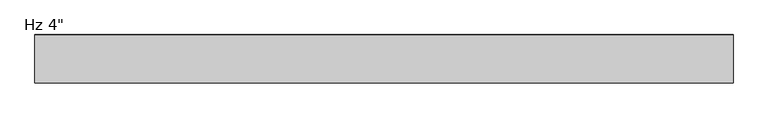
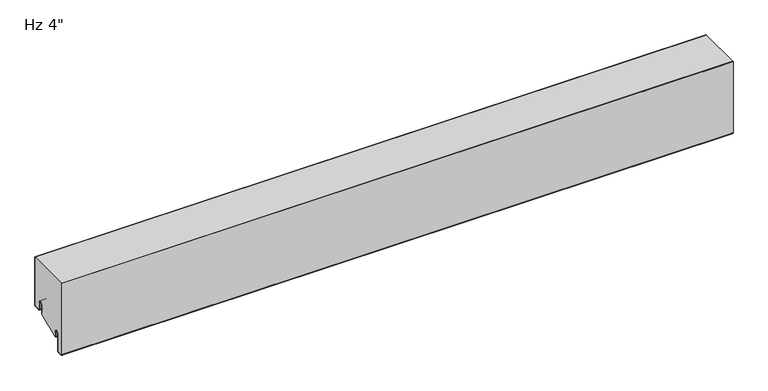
"""IFC4 building model written with IfcOpenShell, lengths in millimetres: plate geometry."""

from ifc_helpers import new_model, si_unit, point, frame, frame_2d, origin, place, context, project, spatial, polyline, circle_curve, trimmed, segment, composite_curve, outline, extrude, source, transform, mapped, element, save


def plate_28d234ab(model_context):
    return source(origin(), model_context, "Body", "SweptSolid", [
        extrude(outline(composite_curve([segment(trimmed(circle_curve(frame_2d((-21.43125, 19.05)), 4.96875), [point((-16.4625, 19.05))], [point((-26.4, 19.05))], True, "CARTESIAN"), True, "CONTINUOUS"), segment(polyline([(-26.4, 19.05), (-26.4, -3.1323422), (-74.6157227, -23.01875), (-76.2, -23.01875), (-76.2, -13.5080174), (-76.99375, -13.5080174), (-76.7875, -11.9205174)]), True, "CONTINUOUS"), segment(trimmed(circle_curve(frame_2d((-81.75625, -11.9205174)), 4.96875), [point((-76.7875, -11.9205174))], [point((-86.725, -11.9205174))], True, "CARTESIAN"), True, "CONTINUOUS"), segment(polyline([(-86.725, -11.9205174), (-86.725, -50.1038221)]), True, "CONTINUOUS"), segment(trimmed(circle_curve(frame_2d((-88.10625, -50.1038221)), 1.38125), [point((-86.725, -50.1038221))], [point((-88.033961, -51.4831791))], False, "CARTESIAN"), True, "CONTINUOUS"), segment(polyline([(-88.033961, -51.4831791), (-99.146461, -52.0655606)]), True, "CONTINUOUS"), segment(trimmed(circle_curve(frame_2d((-99.21875, -50.6862035)), 1.38125), [point((-99.146461, -52.0655606))], [point((-100.6, -50.6862035))], False, "CARTESIAN"), True, "CONTINUOUS"), segment(polyline([(-100.6, -50.6862035), (-100.6, 113.4), (-1.0, 113.4), (-1.0, 3.175)]), True, "CONTINUOUS"), segment(trimmed(circle_curve(frame_2d((-2.38125, 3.175)), 1.38125), [point((-1.0, 3.175))], [point((-2.38125, 1.79375))], False, "CARTESIAN"), True, "CONTINUOUS"), segment(polyline([(-2.38125, 1.79375), (-15.08125, 1.79375)]), True, "CONTINUOUS"), segment(trimmed(circle_curve(frame_2d((-15.08125, 3.175)), 1.38125), [point((-15.08125, 1.79375))], [point((-16.4625, 3.175))], False, "CARTESIAN"), True, "CONTINUOUS"), segment(polyline([(-16.4625, 3.175), (-16.4625, 19.05)]), True, "CONTINUOUS")], self_intersect=False)), frame((-730.0, 0.0, 0.0), z_axis=(1.0, 0.0, 0.0), x_axis=(0.0, 1.0, 0.0)), (0.0, 0.0, 1.0), 1460.0),
        extrude(outline(composite_curve([segment(polyline([(-25.4, 0.79375), (-26.4, 0.79375), (-26.4, 19.05)]), True, "CONTINUOUS"), segment(trimmed(circle_curve(frame_2d((-21.43125, 19.05)), 4.96875), [point((-26.4, 19.05))], [point((-16.4625, 19.05))], False, "CARTESIAN"), True, "CONTINUOUS"), segment(polyline([(-16.4625, 19.05), (-16.4625, 3.175)]), True, "CONTINUOUS"), segment(trimmed(circle_curve(frame_2d((-15.08125, 3.175)), 1.38125), [point((-16.4625, 3.175))], [point((-15.08125, 1.79375))], True, "CARTESIAN"), True, "CONTINUOUS"), segment(polyline([(-15.08125, 1.79375), (-2.38125, 1.79375)]), True, "CONTINUOUS"), segment(trimmed(circle_curve(frame_2d((-2.38125, 3.175)), 1.38125), [point((-2.38125, 1.79375))], [point((-1.0, 3.175))], True, "CARTESIAN"), True, "CONTINUOUS"), segment(polyline([(-1.0, 3.175), (-1.0, 113.4), (0.0, 113.4), (0.0, 3.175)]), True, "CONTINUOUS"), segment(trimmed(circle_curve(frame_2d((-2.38125, 3.175)), 2.38125), [point((0.0, 3.175))], [point((-2.38125, 0.79375))], False, "CARTESIAN"), True, "CONTINUOUS"), segment(polyline([(-2.38125, 0.79375), (-15.08125, 0.79375)]), True, "CONTINUOUS"), segment(trimmed(circle_curve(frame_2d((-15.08125, 3.175)), 2.38125), [point((-15.08125, 0.79375))], [point((-17.4625, 3.175))], False, "CARTESIAN"), True, "CONTINUOUS"), segment(polyline([(-17.4625, 3.175), (-17.4625, 19.05)]), True, "CONTINUOUS"), segment(trimmed(circle_curve(frame_2d((-21.43125, 19.05)), 3.96875), [point((-17.4625, 19.05))], [point((-25.4, 19.05))], True, "CARTESIAN"), True, "CONTINUOUS"), segment(polyline([(-25.4, 19.05), (-25.4, 0.79375)]), True, "CONTINUOUS")], self_intersect=False)), frame((-730.0, 0.0, 0.0), z_axis=(1.0, 0.0, 0.0), x_axis=(0.0, 1.0, 0.0)), (0.0, 0.0, 1.0), 1460.0),
        extrude(outline(composite_curve([segment(trimmed(circle_curve(frame_2d((-76.99375, -23.2314549)), 0.79375), [point((-76.2, -23.2314549))], [point((-77.7875, -23.2314549))], False, "CARTESIAN"), True, "CONTINUOUS"), segment(polyline([(-77.7875, -23.2314549), (-77.7875, -11.9205174)]), True, "CONTINUOUS"), segment(trimmed(circle_curve(frame_2d((-81.75625, -11.9205174)), 3.96875), [point((-77.7875, -11.9205174))], [point((-85.725, -11.9205174))], True, "CARTESIAN"), True, "CONTINUOUS"), segment(polyline([(-85.725, -11.9205174), (-85.725, -50.1038221)]), True, "CONTINUOUS"), segment(trimmed(circle_curve(frame_2d((-88.10625, -50.1038221)), 2.38125), [point((-85.725, -50.1038221))], [point((-87.981625, -52.4818086))], False, "CARTESIAN"), True, "CONTINUOUS"), segment(polyline([(-87.981625, -52.4818086), (-99.094125, -53.0641901)]), True, "CONTINUOUS"), segment(trimmed(circle_curve(frame_2d((-99.21875, -50.6862035)), 2.38125), [point((-99.094125, -53.0641901))], [point((-101.6, -50.6862035))], False, "CARTESIAN"), True, "CONTINUOUS"), segment(polyline([(-101.6, -50.6862035), (-101.6, 113.4), (-100.6, 113.4), (-100.6, -50.6862035)]), True, "CONTINUOUS"), segment(trimmed(circle_curve(frame_2d((-99.21875, -50.6862035)), 1.38125), [point((-100.6, -50.6862035))], [point((-99.146461, -52.0655606))], True, "CARTESIAN"), True, "CONTINUOUS"), segment(polyline([(-99.146461, -52.0655606), (-88.033961, -51.4831791)]), True, "CONTINUOUS"), segment(trimmed(circle_curve(frame_2d((-88.10625, -50.1038221)), 1.38125), [point((-88.033961, -51.4831791))], [point((-86.725, -50.1038221))], True, "CARTESIAN"), True, "CONTINUOUS"), segment(polyline([(-86.725, -50.1038221), (-86.725, -11.9205174)]), True, "CONTINUOUS"), segment(trimmed(circle_curve(frame_2d((-81.75625, -11.9205174)), 4.96875), [point((-86.725, -11.9205174))], [point((-76.7875, -11.9205174))], False, "CARTESIAN"), True, "CONTINUOUS"), segment(polyline([(-76.7875, -11.9205174), (-76.99375, -13.5080174), (-76.2, -13.5080174), (-76.2, -23.2314549)]), True, "CONTINUOUS")], self_intersect=False)), frame((-730.0, 0.0, 0.0), z_axis=(1.0, 0.0, 0.0), x_axis=(0.0, 1.0, 0.0)), (0.0, 0.0, 1.0), 1460.0),
    ])


if __name__ == "__main__":
    model = new_model("IFC4")
    model_context = context("Model", 3, world=origin())
    ifc_project = project(units=[si_unit("LENGTHUNIT", "METRE", prefix="MILLI")], contexts=[model_context])
    site = spatial("IfcSite", under=ifc_project)
    building = spatial("IfcBuilding", under=site)
    placement = place(None, origin())
    plate_shape = plate_28d234ab(model_context)
    element("IfcPlate", 1, ObjectType="KIP-30-DWTR-R19-CP-Hz-F : Hz 4\"", at=placement, inside=building, context=model_context, shape_type="MappedRepresentation", body=[
        mapped(plate_shape, transform((0.0, 0.0, 0.0), x_axis=(1.0, 0.0, 0.0), y_axis=(0.0, 1.0, 0.0), z_axis=(0.0, 0.0, 1.0))),
    ])
    save(model, "model.ifc")
